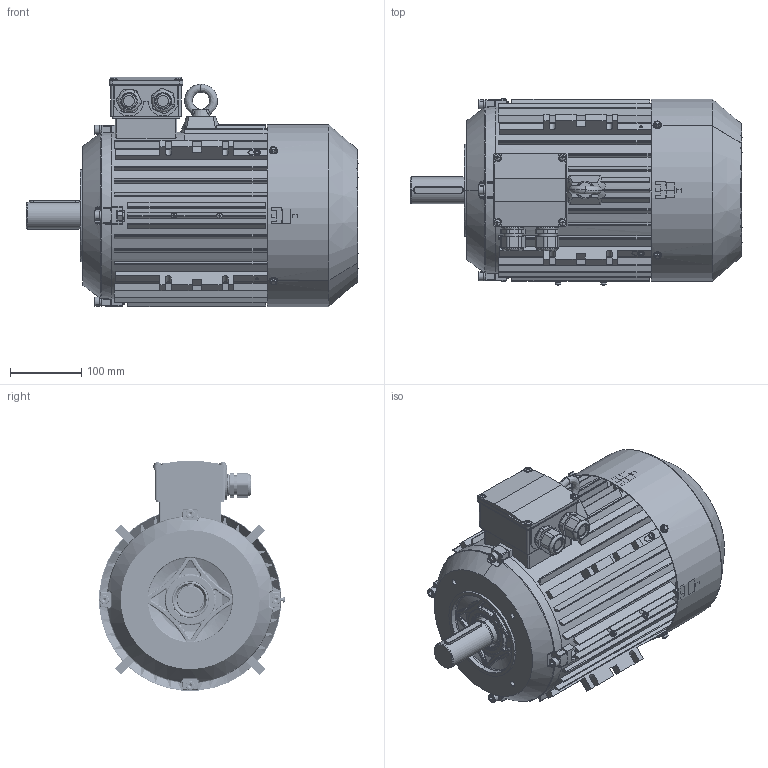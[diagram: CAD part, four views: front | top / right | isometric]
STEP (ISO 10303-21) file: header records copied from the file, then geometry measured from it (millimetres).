
FILE_DESCRIPTION (( 'STEP AP214' ), '1' );
FILE_NAME ('MX3-132S_B14.STEP', '2018-08-06T12:35:26', ( '' ), ( '' ), 'SwSTEP 2.0', 'SolidWorks 2012', '' );
FILE_SCHEMA (( 'AUTOMOTIVE_DESIGN' ));
Products named in the file (28): DMX-IE3 Flange; plain parallel keys_GB_CONNECTING_PIECE_KEYS_CSK 10X70_2; cross recessed pan head screws gb_GB_CROSS_SCREWS_TYPE1 M5X8-8  H type-N_2; cross recessed pan head screws gb_GB_CROSS_SCREWS_TYPE1 M5X25-25  H type-N_2; DMX-IE3 132S4 fan_2; hexagon socket head cap screws gb_GB_FASTENER_SCREWS_HSHCS M8X35-N_2; plain washers--product grade c gb_GB_FASTENER_WASHER_SMWC 4_2; eyebolts gb_GB_FASTENER_SCREWS_FRS M10-S_2; cross recessed pan head screws gb_GB_CROSS_SCREWS_TYPE1 M4X6-6  H type-N_2; DMX-IE3 132S4 grouding mark_2; circlips for shaft--type a large gb_GB_CONNECTING_PIECE_RING_RRA 29_2; DMX-IE3 132S4  cable glands_2; DMX-IE3 132S4  oil seal_2; DMX-IE3 132S4   gasket for terminal box cover_2; DMX-IE3 132S4  connection board_2; DMX-IE3 132S4   gasket for terminal box base_2; spring lock washers--normal type gb_GB_FASTENER_WASHER_SW 8_2; hexagon nuts grade c gb_GB_FASTENER_NUT_SNC1 M8-N_2; cross recessed pan head screws gb_GB_CROSS_SCREWS_TYPE1 M5X10-10  H type-N_2; hex flange bolts-heavy grade b gb_GB_FASTENER_BOLT_HFBB M5X10-N_2; DMX-IE3 132S4   fan cover_2; DMX-IE3 132S4  terminal box_2; DMX-IE3 132S4   terminal box cover_2; DMX-IE3 132S4   rotor2_2; DMX-IE3 132S4   rotor1_2; DMX-IE3 132S4  flange B3_2; DMX-IE3 132S4  casing_2; MX3-132S_B14
Assembly tree (60 placements, depth 2):
  MX3-132S_B14
    DMX-IE3 132S4  casing_2
    DMX-IE3 132S4  flange B3_2
    DMX-IE3 132S4   rotor1_2
    DMX-IE3 132S4   rotor2_2
    DMX-IE3 132S4   terminal box cover_2
    DMX-IE3 132S4  terminal box_2
    DMX-IE3 132S4   fan cover_2
    hex flange bolts-heavy grade b gb_GB_FASTENER_BOLT_HFBB M5X10-N_2  x4
    cross recessed pan head screws gb_GB_CROSS_SCREWS_TYPE1 M5X10-10  H type-N_2  x4
    hexagon nuts grade c gb_GB_FASTENER_NUT_SNC1 M8-N_2  x7
    spring lock washers--normal type gb_GB_FASTENER_WASHER_SW 8_2  x8
    DMX-IE3 132S4   gasket for terminal box base_2
    DMX-IE3 132S4  connection board_2
    DMX-IE3 132S4   gasket for terminal box cover_2
    DMX-IE3 132S4  oil seal_2
    DMX-IE3 132S4  cable glands_2  x2
    circlips for shaft--type a large gb_GB_CONNECTING_PIECE_RING_RRA 29_2
    DMX-IE3 132S4 grouding mark_2
    cross recessed pan head screws gb_GB_CROSS_SCREWS_TYPE1 M4X6-6  H type-N_2  x3
    eyebolts gb_GB_FASTENER_SCREWS_FRS M10-S_2
    plain washers--product grade c gb_GB_FASTENER_WASHER_SMWC 4_2
    hexagon socket head cap screws gb_GB_FASTENER_SCREWS_HSHCS M8X35-N_2  x8
    DMX-IE3 132S4 fan_2
    cross recessed pan head screws gb_GB_CROSS_SCREWS_TYPE1 M5X25-25  H type-N_2  x2
    cross recessed pan head screws gb_GB_CROSS_SCREWS_TYPE1 M5X8-8  H type-N_2  x4
    plain parallel keys_GB_CONNECTING_PIECE_KEYS_CSK 10X70_2
    DMX-IE3 Flange
Bounding box: 467.6 x 262.05 x 323.27 mm (x, y, z)
Volume: 5031456.7 mm3; surface area: 1545448.5 mm2
Topology: 63 solids, 65 shells, 4827 faces, 12820 edges, 8241 vertices
Faces by surface type: plane 2556, cylinder 1063, bspline 744, cone 464
Entity records: 180399 total; most frequent: CARTESIAN_POINT 78256, ORIENTED_EDGE 22140, DIRECTION 19121, EDGE_CURVE 11070, VERTEX_POINT 7170, VECTOR 6527, LINE 6527, AXIS2_PLACEMENT_3D 6297
